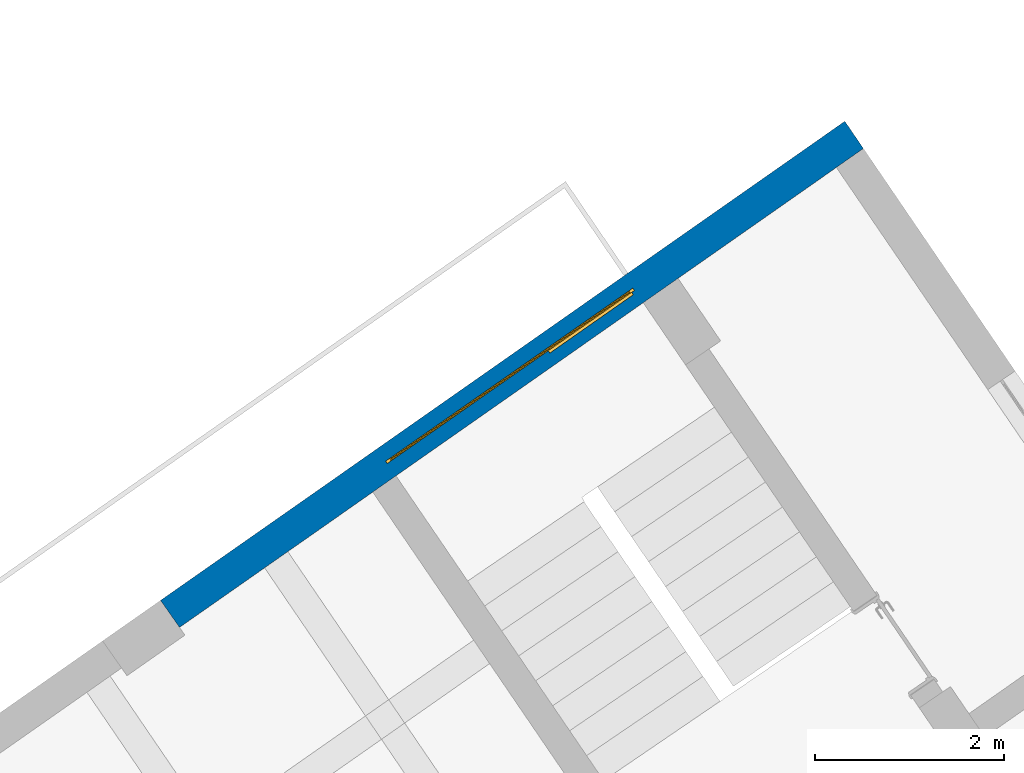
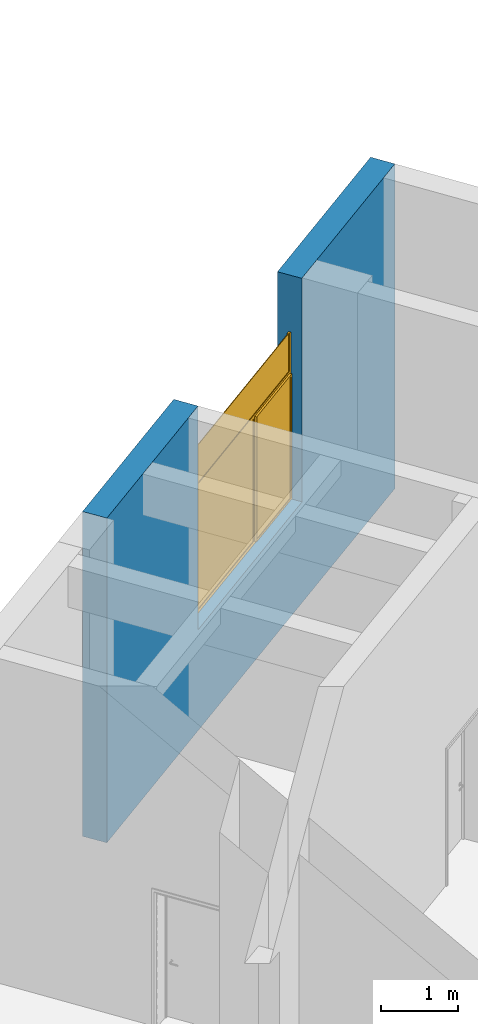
# One storey, part 131 of 157: 1 wall, 1 window, 1 opening.
"""IFC2X3 building model written with IfcOpenShell, lengths in millimetres."""

from ifc_helpers import new_model, entity, si_unit, converted_unit, derived_unit, direction, frame, frame_2d, origin, origin_2d_with_axis, place, context, subcontext, project, spatial, polyline, rectangle, outline, extrude, faceted_brep, source, transform, mapped, material, material_list, layer, layer_set, type_object, type_shapes, element, fill, save


model = new_model("IFC2X3")

# Units and contexts
model_context = context("Model", 3, precision=0.01, world=origin(), true_north=direction((6.123031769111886e-17, 1.0)))
body_context = subcontext(model_context, "Body", "Model", "MODEL_VIEW")
ifc_project = project(units=[si_unit("LENGTHUNIT", "METRE", prefix="MILLI"), si_unit("AREAUNIT", "SQUARE_METRE"), si_unit("VOLUMEUNIT", "CUBIC_METRE"), converted_unit("PLANEANGLEUNIT", "DEGREE", entity("IfcRatioMeasure", 0.017453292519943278), si_unit("PLANEANGLEUNIT", "RADIAN"), dimensions=[0, 0, 0, 0, 0, 0, 0]), si_unit("MASSUNIT", "GRAM", prefix="KILO"), derived_unit("MASSDENSITYUNIT", [(si_unit("MASSUNIT", "GRAM", prefix="KILO"), 1), (si_unit("LENGTHUNIT", "METRE"), -3)]), derived_unit("MOMENTOFINERTIAUNIT", [(si_unit("LENGTHUNIT", "METRE"), 4)]), si_unit("TIMEUNIT", "SECOND"), si_unit("FREQUENCYUNIT", "HERTZ"), si_unit("THERMODYNAMICTEMPERATUREUNIT", "DEGREE_CELSIUS"), derived_unit("THERMALTRANSMITTANCEUNIT", [(si_unit("MASSUNIT", "GRAM", prefix="KILO"), 1), (si_unit("THERMODYNAMICTEMPERATUREUNIT", "KELVIN"), -1), (si_unit("TIMEUNIT", "SECOND"), -3)]), derived_unit("THERMALCONDUCTANCEUNIT", [(si_unit("MASSUNIT", "GRAM", prefix="KILO"), 1), (si_unit("LENGTHUNIT", "METRE"), 1), (si_unit("THERMODYNAMICTEMPERATUREUNIT", "KELVIN"), -1), (si_unit("TIMEUNIT", "SECOND"), -3)]), derived_unit("VOLUMETRICFLOWRATEUNIT", [(si_unit("LENGTHUNIT", "METRE"), 3), (si_unit("TIMEUNIT", "SECOND"), -1)]), derived_unit("MASSFLOWRATEUNIT", [(si_unit("MASSUNIT", "GRAM", prefix="KILO"), 1), (si_unit("TIMEUNIT", "SECOND"), -1)]), derived_unit("ROTATIONALFREQUENCYUNIT", [(si_unit("TIMEUNIT", "SECOND"), -1)]), si_unit("ELECTRICCURRENTUNIT", "AMPERE"), si_unit("ELECTRICVOLTAGEUNIT", "VOLT"), si_unit("POWERUNIT", "WATT"), converted_unit("FORCEUNIT", "KIP", entity("IfcRatioMeasure", 2.088543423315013e-05), si_unit("FORCEUNIT", "NEWTON"), dimensions=[1, 1, -2, 0, 0, 0, 0]), si_unit("ILLUMINANCEUNIT", "LUX"), si_unit("LUMINOUSFLUXUNIT", "LUMEN"), si_unit("LUMINOUSINTENSITYUNIT", "CANDELA"), derived_unit("USERDEFINED", [(si_unit("MASSUNIT", "GRAM", prefix="KILO"), -1), (si_unit("LENGTHUNIT", "METRE"), -2), (si_unit("TIMEUNIT", "SECOND"), 3), (si_unit("LUMINOUSFLUXUNIT", "LUMEN"), 1)]), derived_unit("USERDEFINED", [(si_unit("MASSUNIT", "GRAM", prefix="KILO"), 1), (si_unit("LENGTHUNIT", "METRE"), 3), (si_unit("TIMEUNIT", "SECOND"), -3), (si_unit("ELECTRICCURRENTUNIT", "AMPERE"), -2)]), derived_unit("USERDEFINED", [(si_unit("LENGTHUNIT", "METRE"), 2), (si_unit("TIMEUNIT", "SECOND"), -2)]), derived_unit("SOUNDPOWERUNIT", [(si_unit("MASSUNIT", "GRAM", prefix="KILO"), 1), (si_unit("LENGTHUNIT", "METRE"), 2), (si_unit("TIMEUNIT", "SECOND"), -3)]), derived_unit("SOUNDPRESSUREUNIT", [(si_unit("MASSUNIT", "GRAM", prefix="KILO"), 1), (si_unit("LENGTHUNIT", "METRE"), -1), (si_unit("TIMEUNIT", "SECOND"), -2)]), derived_unit("LINEARVELOCITYUNIT", [(si_unit("LENGTHUNIT", "METRE"), 1), (si_unit("TIMEUNIT", "SECOND"), -1)]), si_unit("PRESSUREUNIT", "PASCAL"), derived_unit("USERDEFINED", [(si_unit("LENGTHUNIT", "METRE"), -2), (si_unit("MASSUNIT", "GRAM", prefix="KILO"), 1), (si_unit("TIMEUNIT", "SECOND"), -2)]), derived_unit("LINEARFORCEUNIT", [(si_unit("MASSUNIT", "GRAM", prefix="KILO"), 1), (si_unit("LENGTHUNIT", "METRE"), 1), (si_unit("TIMEUNIT", "SECOND"), -2), (si_unit("LENGTHUNIT", "METRE"), -1)]), derived_unit("PLANARFORCEUNIT", [(si_unit("MASSUNIT", "GRAM", prefix="KILO"), 1), (si_unit("LENGTHUNIT", "METRE"), 1), (si_unit("TIMEUNIT", "SECOND"), -2), (si_unit("LENGTHUNIT", "METRE"), -2)]), derived_unit("SPECIFICHEATCAPACITYUNIT", [(si_unit("LENGTHUNIT", "METRE"), 2), (si_unit("TIMEUNIT", "SECOND"), -2), (si_unit("THERMODYNAMICTEMPERATUREUNIT", "KELVIN"), -1)]), derived_unit("VAPORPERMEABILITYUNIT", [(si_unit("TIMEUNIT", "SECOND"), 1), (si_unit("LENGTHUNIT", "METRE"), -1)]), derived_unit("DYNAMICVISCOSITYUNIT", [(si_unit("MASSUNIT", "GRAM", prefix="KILO"), 1), (si_unit("LENGTHUNIT", "METRE"), -1), (si_unit("TIMEUNIT", "SECOND"), -1)]), derived_unit("THERMALEXPANSIONCOEFFICIENTUNIT", [(si_unit("THERMODYNAMICTEMPERATUREUNIT", "KELVIN"), -1)])], contexts=[model_context])

# Site, building, storey
site_placement = place(None, frame((0.0, 0.0, 0.0), z_axis=(0.0, 0.0, 1.0), x_axis=(0.8191520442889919, 0.5735764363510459, 0.0)))
site = spatial("IfcSite", under=ifc_project, at=site_placement, Name="Default", CompositionType="ELEMENT")
building_placement = place(site_placement, origin())
building = spatial("IfcBuilding", under=site, at=building_placement, CompositionType="ELEMENT")
storey_placement = place(building_placement, origin())
storey = spatial("IfcBuildingStorey", under=building, at=storey_placement, Name="1.EG +0.00", CompositionType="ELEMENT", Elevation=-4.331468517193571e-12)

# Wall, opening, window
ifc_material_1 = material(Name="Analytical Wall Surface_CJC")
ifc_layer = layer(ifc_material_1, 350.0)
ifc_layer_set = layer_set([ifc_layer], Name="Basic Wall:Wand_Aussen_35")
wall_type = type_object("IfcWallType", Name="Basic Wall:Wand_Aussen_35", PredefinedType="STANDARD", material=ifc_layer_set)
wall_placement = place(storey_placement, frame((-212873.52518618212, 172846.35891435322, 0.0)))
wall = element("IfcWall", 1, at=wall_placement, inside=storey, type_object=wall_type, Name="Basic Wall:Wand_Aussen_35", ObjectType="Basic Wall:Wand_Aussen_35", context=body_context, shape_type="Brep", body=[
    faceted_brep([(2800.0, -175.0, 4250.0), (2801.5627479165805, -175.0, 4250.0), (2801.5627479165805, -175.0, 5150.0), (2501.538438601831, -175.0, 5150.0), (1401.461459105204, -175.0, 5150.0), (1101.4371497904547, -175.0, 5150.0), (0.0, -175.0, 5150.0), (0.0, -175.0, 0.0), (2501.538438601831, -175.0, 0.0), (2801.5627479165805, -175.0, 0.0), (6001.838253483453, -175.0, 0.0), (6451.874717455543, -175.0, 0.0), (8502.022599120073, -175.0, 0.0), (8852.05095998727, -175.0, 0.0), (8852.05095998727, -175.0, 5150.0), (8502.022599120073, -175.0, 5150.0), (6451.874717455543, -175.0, 5150.0), (6001.838253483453, -175.0, 5150.0), (5991.690220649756, -175.0, 5150.0), (5991.690220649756, -175.0, 4250.0), (6000.0, -175.0, 4250.0), (6000.0, -175.0, 1600.0), (2800.0, -175.0, 1600.0), (2806.0184646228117, 175.0, 5150.0), (2806.0184646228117, 175.0, 4250.0), (2800.0, 175.0, 4250.0), (2800.0, 175.0, 1600.0), (6000.0, 175.0, 1600.0), (6000.0, 175.0, 4250.0), (5991.690220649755, 175.0, 4250.0), (5991.690220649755, 175.0, 5150.0), (8856.506676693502, 175.0, 5150.0), (8856.506676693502, 175.0, 0.0), (0.0, 175.0, 0.0), (0.0, 175.0, 5150.0)], [[[0, 1, 2, 3, 4, 5, 6, 7, 8, 9, 10, 11, 12, 13, 14, 15, 16, 17, 18, 19, 20, 21, 22]], [[23, 24, 25, 26, 27, 28, 29, 30, 31, 32, 33, 34]], [[14, 13, 32, 31]], [[0, 22, 26, 25]], [[25, 24, 1, 0]], [[21, 20, 28, 27]], [[22, 21, 27, 26]], [[13, 12, 11, 10, 9, 8, 7, 33, 32]], [[6, 5, 4, 3, 2, 23, 34]], [[7, 6, 34, 33]], [[18, 17, 16, 15, 14, 31, 30]], [[19, 18, 30, 29]], [[2, 1, 24, 23]], [[29, 28, 20, 19]]]),
])
opening_placement = place(wall_placement, frame((2800.0, -175.0, 1600.0)))
opening = element("IfcOpeningElement", 2, at=opening_placement, cuts=wall, Name="Fenster_Aussen_NORD1_CJC:Fenster_Aussen_NORD1_CJC:1", ObjectType="Opening", context=body_context, shape_type="SweptSolid", body=[
    extrude(rectangle(XDim=2649.9999999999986, YDim=3200.0, at=frame_2d((1324.9999999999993, 1600.0), x_axis=(1.0, 0.0))), frame((0.0, 0.0, 0.0), z_axis=(0.0, 1.0, 0.0), x_axis=(0.0, 0.0, 1.0)), (0.0, 0.0, 1.0), 350.0),
])
ifc_material_2 = material(Name="Glass")
ifc_material_3 = material(Name="<Unnamed>")
ifc_material_list = material_list([ifc_material_2, ifc_material_3])
window_style = type_object("IfcWindowStyle", Name="Fenster_Aussen_NORD1_CJC:Fenster_Aussen_NORD1_CJC", ConstructionType="NOTDEFINED", OperationType="NOTDEFINED", ParameterTakesPrecedence=False, Sizeable=False, material=ifc_material_list)
shared_shape = source(origin(), body_context, "Body", "SweptSolid", [
    extrude(rectangle(XDim=9.999999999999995, YDim=3099.9999999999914, at=origin_2d_with_axis()), frame((1600.0, 175.0, 2050.0), z_axis=(0.0, 0.0, 1.0), x_axis=(0.0, 1.0, 0.0)), (0.0, 0.0, 1.0), 600.0000000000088),
    extrude(rectangle(XDim=9.999999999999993, YDim=1999.9999999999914, at=origin_2d_with_axis()), frame((1050.0, 175.0, 50.0), z_axis=(0.0, 0.0, 1.0), x_axis=(0.0, 1.0, 0.0)), (0.0, 0.0, 1.0), 1949.9999999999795),
    extrude(rectangle(XDim=9.999999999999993, YDim=1019.9999999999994, at=frame_2d((2.220446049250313e-15, 5.684341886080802e-14), x_axis=(1.0, 0.0))), frame((2625.0, 145.0, 65.0), z_axis=(0.0, 0.0, 1.0), x_axis=(0.0, 1.0, 0.0)), (0.0, 0.0, 1.0), 1919.9999999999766),
    extrude(outline(polyline([(-540.0, -990.0), (540.0, -990.0), (540.0, 990.0), (-540.0, 990.0), (-540.0, -990.0)]), holes=[polyline([(510.0, 960.0), (510.0, -960.0), (-510.0, -960.0), (-510.0, 960.0), (510.0, 960.0)])]), frame((2625.0, 130.0, 1025.0), z_axis=(0.0, 1.0, 0.0), x_axis=(1.0, 0.0, 0.0)), (0.0, 0.0, 1.0), 29.999999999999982),
    extrude(outline(polyline([(-1600.0, -1837.499999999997), (1600.0, -1837.499999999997), (1600.0, 812.5000000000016), (1550.0, 812.5000000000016), (1550.0, 212.49999999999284), (-1550.0, 212.49999999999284), (-1550.0, 812.5000000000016), (-1600.0, 812.5000000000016), (-1600.0, -1837.499999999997)]), holes=[polyline([(-1550.0, -1787.49999999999), (-1550.0, 162.4999999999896), (-500.0, 162.49999999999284), (-500.0, -1787.4999999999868), (-1550.0, -1787.49999999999)]), polyline([(-450.0, 162.49999999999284), (1550.0, 162.49999999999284), (1550.0, -1787.4999999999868), (-450.0, -1787.4999999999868), (-450.0, 162.49999999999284)])]), frame((1600.0, 160.0, 1837.499999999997), z_axis=(0.0, 1.0, 0.0), x_axis=(-1.0, 0.0, 0.0)), (0.0, 0.0, 1.0), 30.000000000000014),
])
type_shapes(window_style, [shared_shape])
window_placement = place(opening_placement, origin())
window = element("IfcWindow", 3, at=window_placement, inside=storey, type_object=window_style, material=ifc_material_list, Name="Fenster_Aussen_NORD1_CJC:Fenster_Aussen_NORD1_CJC", ObjectType="Fenster_Aussen_NORD1_CJC:Fenster_Aussen_NORD1_CJC", OverallHeight=2649.9999999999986, OverallWidth=3200.0, context=body_context, shape_type="MappedRepresentation", body=[
    mapped(shared_shape, transform((0.0, 0.0, 0.0), scale=1.0)),
])
fill(opening, window)

save(model, "model.ifc")
